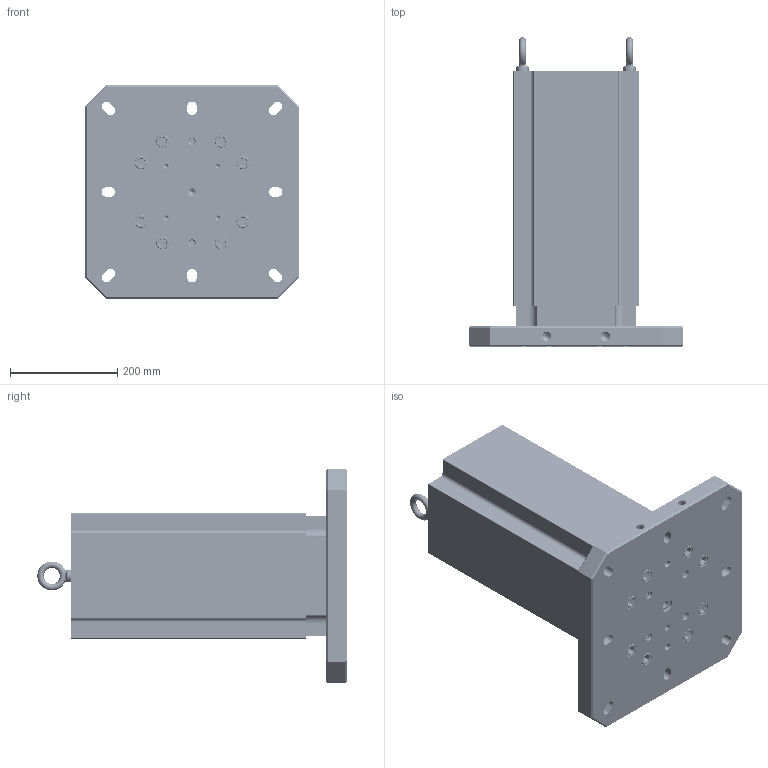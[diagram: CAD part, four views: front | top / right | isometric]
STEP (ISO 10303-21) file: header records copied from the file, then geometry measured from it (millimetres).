
FILE_DESCRIPTION (( 'STEP AP214' ), '1' );
FILE_NAME ('RL96A-4004U-485.STEP', '2025-06-24T07:18:08', ( '' ), ( '' ), 'SwSTEP 2.0', 'SolidWorks 2024', '' );
FILE_SCHEMA (( 'AUTOMOTIVE_DESIGN' ));
Length unit declared in the file: millimetre
Products named in the file (8): HW.76452_dev_91290A835; HW.76172; RL96-14TC; RL96-4004BUA; 156x2.OR  -  O-RING, 156mm ID X 2mm THK, BUNA-N, 70A; RL96A-4004U-485; M12X24MM.EB (McM 3040T15)_3040T15; MT-4477A_MT-4600A
Assembly tree (18 placements, depth 2):
  RL96A-4004U-485
    RL96-4004BUA
    MT-4477A_MT-4600A
    M12X24MM.EB (McM 3040T15)_3040T15  x2
    156x2.OR  -  O-RING, 156mm ID X 2mm THK, BUNA-N, 70A
    HW.76452_dev_91290A835  x8
    RL96-14TC
    HW.76172  x4
Bounding box: 400 x 577.9 x 400 mm (x, y, z)
Volume: 21406423.1 mm3; surface area: 1297247.5 mm2
Topology: 18 solids, 18 shells, 2062 faces, 5522 edges, 3522 vertices
Faces by surface type: cylinder 1388, plane 318, cone 284, bspline 42, torus 30
Entity records: 33382 total; most frequent: CARTESIAN_POINT 13908, ORIENTED_EDGE 4162, DIRECTION 3945, EDGE_CURVE 2081, AXIS2_PLACEMENT_3D 1482, VERTEX_POINT 1327, LINE 981, VECTOR 981
